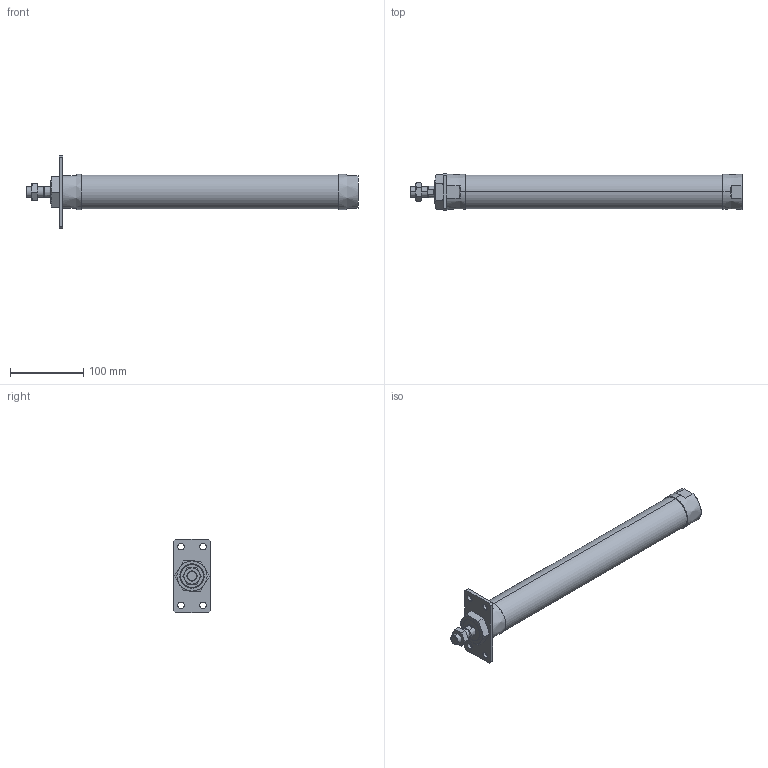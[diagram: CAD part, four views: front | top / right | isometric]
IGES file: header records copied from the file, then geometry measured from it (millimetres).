
Start section: SolidWorks IGES file using analytic representation for surfaces
Global section: file name: C:\Users\Toshiba\Desktop\JGND2-40-300-A.IGS; native system: SolidWorks 2014; preprocessor: SolidWorks 2014; author: Toshiba; date: 160804.111605; units: millimetre
Bounding box: 453 x 50 x 100 mm (x, y, z)
Surface area: 82248 mm2 (no closed solid volume)
Topology: 0 solids, 0 shells, 109 faces, 2174 edges, 2170 vertices
Faces by surface type: bspline 66, revolution 43
